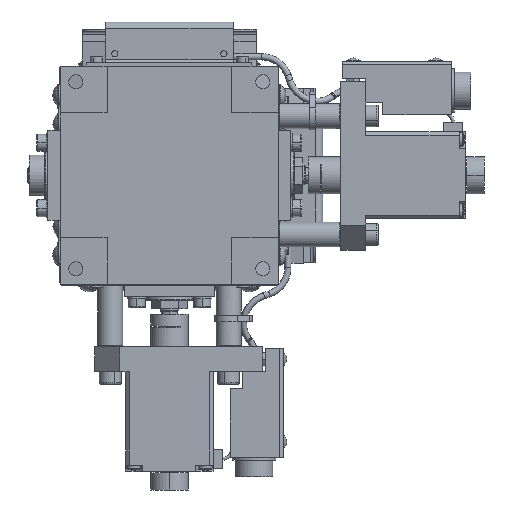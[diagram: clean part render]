
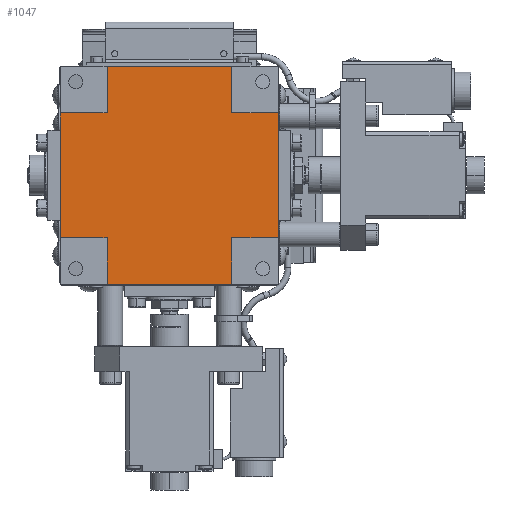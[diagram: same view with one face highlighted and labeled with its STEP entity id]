
A CAD part, front view. The second image highlights one B-rep face of the part: STEP entity #1047.
In plain terms, the highlighted planar face has unit normal (0, -1, 0).
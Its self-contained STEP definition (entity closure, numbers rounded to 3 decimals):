
#1047 = ADVANCED_FACE ( 'NONE', ( #40060 ), #8164, .F. ) ;
#1253 = LINE ( 'NONE', #28579, #5885 ) ;
#1859 = ORIENTED_EDGE ( 'NONE', *, *, #36121, .T. ) ;
#2740 = CARTESIAN_POINT ( 'NONE',  ( 0., 0.3, 0. ) ) ;
#3570 = LINE ( 'NONE', #45300, #42938 ) ;
#3810 = VERTEX_POINT ( 'NONE', #40102 ) ;
#4457 = DIRECTION ( 'NONE',  ( -1., 0., 0. ) ) ;
#4546 = VERTEX_POINT ( 'NONE', #35663 ) ;
#4902 = LINE ( 'NONE', #53419, #59841 ) ;
#5527 = ORIENTED_EDGE ( 'NONE', *, *, #73307, .T. ) ;
#5885 = VECTOR ( 'NONE', #4457, 1000. ) ;
#8164 = PLANE ( 'NONE',  #49636 ) ;
#8683 = DIRECTION ( 'NONE',  ( 0., 1., 0. ) ) ;
#9534 = EDGE_CURVE ( 'NONE', #4546, #3810, #1253, .T. ) ;
#11280 = VERTEX_POINT ( 'NONE', #35332 ) ;
#12584 = VECTOR ( 'NONE', #15906, 1000. ) ;
#13042 = CARTESIAN_POINT ( 'NONE',  ( -20., 0.3, -35. ) ) ;
#13125 = ORIENTED_EDGE ( 'NONE', *, *, #52273, .T. ) ;
#13232 = CARTESIAN_POINT ( 'NONE',  ( -20., 0.3, 35. ) ) ;
#14052 = LINE ( 'NONE', #62986, #46985 ) ;
#14380 = VERTEX_POINT ( 'NONE', #68973 ) ;
#14817 = ORIENTED_EDGE ( 'NONE', *, *, #63134, .T. ) ;
#15906 = DIRECTION ( 'NONE',  ( 0., 0., -1. ) ) ;
#16333 = CARTESIAN_POINT ( 'NONE',  ( 20., 0.3, -35. ) ) ;
#17268 = ORIENTED_EDGE ( 'NONE', *, *, #9534, .T. ) ;
#17284 = CARTESIAN_POINT ( 'NONE',  ( -20., 0.3, -35. ) ) ;
#17608 = VERTEX_POINT ( 'NONE', #17284 ) ;
#21519 = VECTOR ( 'NONE', #47957, 1000. ) ;
#22974 = DIRECTION ( 'NONE',  ( 1., 0., 0. ) ) ;
#23367 = DIRECTION ( 'NONE',  ( 0., 0., -1. ) ) ;
#25005 = VERTEX_POINT ( 'NONE', #13232 ) ;
#25230 = VECTOR ( 'NONE', #30976, 1000. ) ;
#25709 = EDGE_CURVE ( 'NONE', #11280, #25005, #3570, .T. ) ;
#26979 = LINE ( 'NONE', #68642, #56214 ) ;
#28024 = CARTESIAN_POINT ( 'NONE',  ( -20., 0.3, -20. ) ) ;
#28579 = CARTESIAN_POINT ( 'NONE',  ( 20., 0.3, 20. ) ) ;
#30737 = LINE ( 'NONE', #65659, #21519 ) ;
#30976 = DIRECTION ( 'NONE',  ( 1., 0., 0. ) ) ;
#33345 = EDGE_CURVE ( 'NONE', #60670, #4546, #4902, .T. ) ;
#33563 = VERTEX_POINT ( 'NONE', #38851 ) ;
#34488 = CARTESIAN_POINT ( 'NONE',  ( -35., 0.3, -20. ) ) ;
#35332 = CARTESIAN_POINT ( 'NONE',  ( 20., 0.3, 35. ) ) ;
#35663 = CARTESIAN_POINT ( 'NONE',  ( 35., 0.3, 20. ) ) ;
#35831 = ORIENTED_EDGE ( 'NONE', *, *, #33345, .T. ) ;
#36121 = EDGE_CURVE ( 'NONE', #66776, #33563, #49179, .T. ) ;
#38851 = CARTESIAN_POINT ( 'NONE',  ( -35., 0.3, -20. ) ) ;
#38995 = EDGE_CURVE ( 'NONE', #33563, #47566, #66782, .T. ) ;
#39435 = DIRECTION ( 'NONE',  ( -1., 0., 0. ) ) ;
#40060 = FACE_OUTER_BOUND ( 'NONE', #72561, .T. ) ;
#40102 = CARTESIAN_POINT ( 'NONE',  ( 20., 0.3, 20. ) ) ;
#42150 = CARTESIAN_POINT ( 'NONE',  ( -35., 0.3, 20. ) ) ;
#42760 = ORIENTED_EDGE ( 'NONE', *, *, #56798, .T. ) ;
#42938 = VECTOR ( 'NONE', #39435, 1000. ) ;
#44251 = VECTOR ( 'NONE', #48300, 1000. ) ;
#45276 = LINE ( 'NONE', #60100, #25230 ) ;
#45300 = CARTESIAN_POINT ( 'NONE',  ( -20., 0.3, 35. ) ) ;
#45723 = DIRECTION ( 'NONE',  ( 0., 0., 1. ) ) ;
#46857 = ORIENTED_EDGE ( 'NONE', *, *, #38995, .T. ) ;
#46930 = EDGE_CURVE ( 'NONE', #74209, #14380, #69907, .T. ) ;
#46961 = VECTOR ( 'NONE', #45723, 1000. ) ;
#46985 = VECTOR ( 'NONE', #23367, 1000. ) ;
#47566 = VERTEX_POINT ( 'NONE', #28024 ) ;
#47897 = LINE ( 'NONE', #13042, #44251 ) ;
#47957 = DIRECTION ( 'NONE',  ( 0., 0., 1. ) ) ;
#48300 = DIRECTION ( 'NONE',  ( 1., 0., 0. ) ) ;
#48542 = ORIENTED_EDGE ( 'NONE', *, *, #71286, .T. ) ;
#49044 = DIRECTION ( 'NONE',  ( -1., 0., 0. ) ) ;
#49109 = LINE ( 'NONE', #61605, #50016 ) ;
#49179 = LINE ( 'NONE', #67845, #12584 ) ;
#49636 = AXIS2_PLACEMENT_3D ( 'NONE', #2740, #8683, #49044 ) ;
#50016 = VECTOR ( 'NONE', #61858, 1000. ) ;
#50504 = CARTESIAN_POINT ( 'NONE',  ( 20., 0.3, -35. ) ) ;
#51870 = EDGE_CURVE ( 'NONE', #3810, #11280, #30737, .T. ) ;
#52273 = EDGE_CURVE ( 'NONE', #68139, #66776, #26979, .T. ) ;
#53164 = DIRECTION ( 'NONE',  ( 0., 0., 1. ) ) ;
#53419 = CARTESIAN_POINT ( 'NONE',  ( 35., 0.3, 20. ) ) ;
#56214 = VECTOR ( 'NONE', #75853, 1000. ) ;
#56766 = CARTESIAN_POINT ( 'NONE',  ( -20., 0.3, 20. ) ) ;
#56798 = EDGE_CURVE ( 'NONE', #14380, #60670, #45276, .T. ) ;
#59841 = VECTOR ( 'NONE', #53164, 1000. ) ;
#60100 = CARTESIAN_POINT ( 'NONE',  ( 20., 0.3, -20. ) ) ;
#60670 = VERTEX_POINT ( 'NONE', #69885 ) ;
#61605 = CARTESIAN_POINT ( 'NONE',  ( -20., 0.3, -35. ) ) ;
#61819 = ORIENTED_EDGE ( 'NONE', *, *, #25709, .T. ) ;
#61858 = DIRECTION ( 'NONE',  ( 0., 0., -1. ) ) ;
#62986 = CARTESIAN_POINT ( 'NONE',  ( -20., 0.3, 20. ) ) ;
#63134 = EDGE_CURVE ( 'NONE', #47566, #17608, #49109, .T. ) ;
#63295 = ORIENTED_EDGE ( 'NONE', *, *, #46930, .T. ) ;
#65659 = CARTESIAN_POINT ( 'NONE',  ( 20., 0.3, 20. ) ) ;
#66776 = VERTEX_POINT ( 'NONE', #42150 ) ;
#66782 = LINE ( 'NONE', #34488, #69557 ) ;
#67845 = CARTESIAN_POINT ( 'NONE',  ( -35., 0.3, 20. ) ) ;
#68139 = VERTEX_POINT ( 'NONE', #56766 ) ;
#68642 = CARTESIAN_POINT ( 'NONE',  ( -35., 0.3, 20. ) ) ;
#68973 = CARTESIAN_POINT ( 'NONE',  ( 20., 0.3, -20. ) ) ;
#69557 = VECTOR ( 'NONE', #22974, 1000. ) ;
#69885 = CARTESIAN_POINT ( 'NONE',  ( 35., 0.3, -20. ) ) ;
#69907 = LINE ( 'NONE', #16333, #46961 ) ;
#71286 = EDGE_CURVE ( 'NONE', #17608, #74209, #47897, .T. ) ;
#72561 = EDGE_LOOP ( 'NONE', ( #42760, #35831, #17268, #73365, #61819, #5527, #13125, #1859, #46857, #14817, #48542, #63295 ) ) ;
#73307 = EDGE_CURVE ( 'NONE', #25005, #68139, #14052, .T. ) ;
#73365 = ORIENTED_EDGE ( 'NONE', *, *, #51870, .T. ) ;
#74209 = VERTEX_POINT ( 'NONE', #50504 ) ;
#75853 = DIRECTION ( 'NONE',  ( -1., 0., 0. ) ) ;
